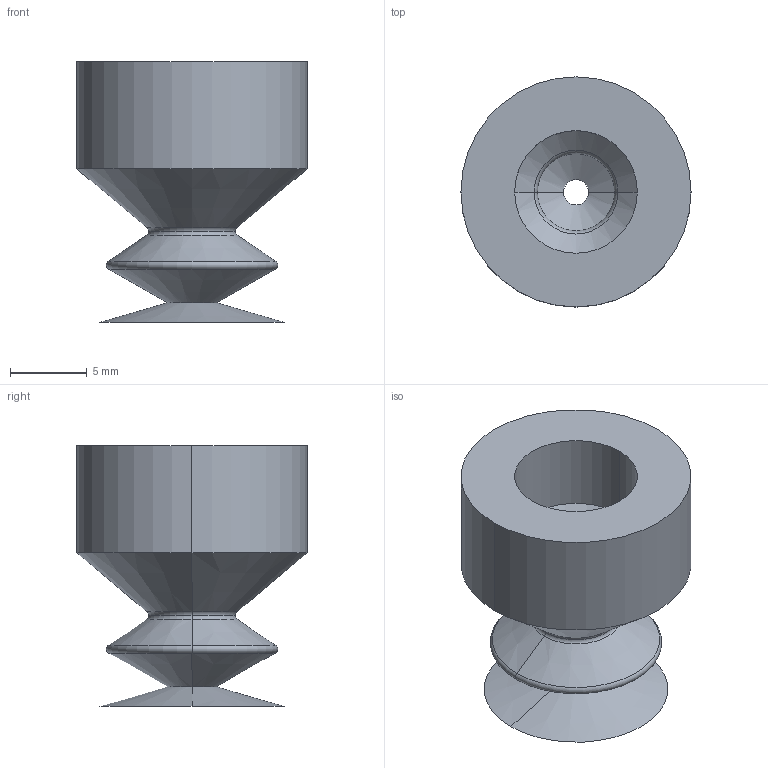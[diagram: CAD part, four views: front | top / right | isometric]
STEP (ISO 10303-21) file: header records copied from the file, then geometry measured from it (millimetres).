
FILE_DESCRIPTION (( 'STEP AP214' ), '1' );
FILE_NAME ('VSH2-M12.STEP', '2019-12-02T06:28:29', ( '微软用户' ), ( '微软中国' ), 'SwSTEP 2.0', 'SolidWorks 2016', '' );
FILE_SCHEMA (( 'AUTOMOTIVE_DESIGN' ));
Length unit declared in the file: millimetre
Products named in the file (1): VSH2-M12
Bounding box: 15 x 15 x 17 mm (x, y, z)
Volume: 804 mm3; surface area: 1782.5 mm2
Topology: 1 solids, 1 shells, 35 faces, 70 edges, 38 vertices
Faces by surface type: cone 16, torus 10, cylinder 6, plane 3
Entity records: 942 total; most frequent: DIRECTION 190, CARTESIAN_POINT 144, ORIENTED_EDGE 140, AXIS2_PLACEMENT_3D 84, EDGE_CURVE 70, CIRCLE 48, EDGE_LOOP 38, VERTEX_POINT 38
